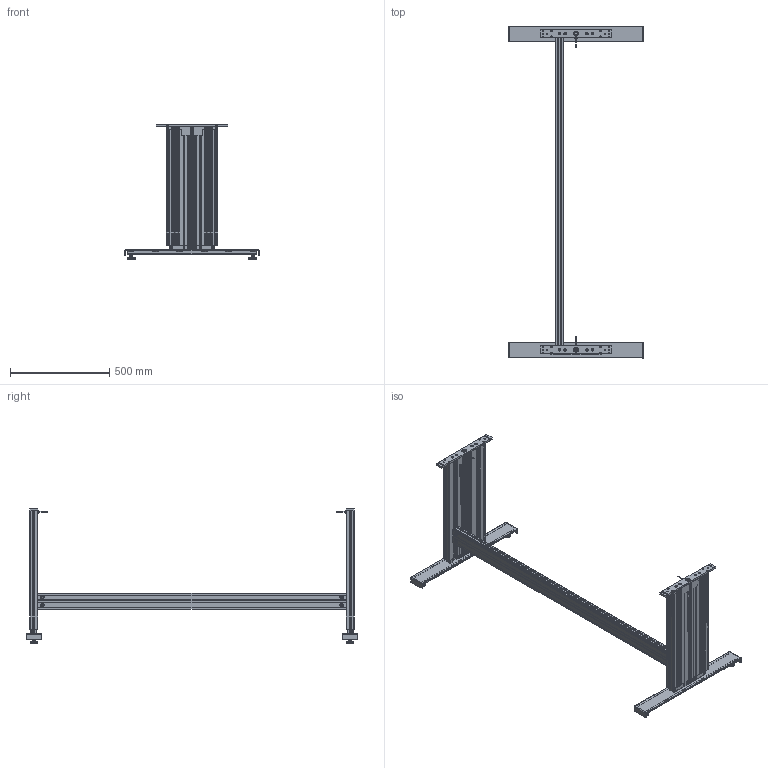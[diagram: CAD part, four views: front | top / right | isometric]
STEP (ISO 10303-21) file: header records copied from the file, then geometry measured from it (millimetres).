
FILE_DESCRIPTION(/* description */ ('Unknown'),/* implementation_level */ '2;1');
FILE_NAME(/* name */ '108.00184 Untergestell TT-2 1440 1590_eingefahren',/* time_stamp */ '2017-11-24T15:29:36+01:00',/* author */ ('Unknown'),/* organization */ ('Unknown'),/* preprocessor_version */ 'ST-DEVELOPER v16.7',/* originating_system */ 'DEX',/* authorisation */ $);
FILE_SCHEMA (('AP242_MANAGED_MODEL_BASED_3D_ENGINEERING_MIM_LF { 1 0 10303 442 1 1 4 }','AUTOMOTIVE_DESIGN {1 0 10303 214 3 1 1}'));
Products named in the file (31): 108.00184; 106.00315_oa_0; 119.00201; 119.00152; 124.00004; 142.00188; 142.00166; 142.00031; 126.00102; 107.00027_oa_1; 115.00007_oa_2; 125.00021; 125.00033; 142.00021; 113.00002_70mm; 106.00315_oa_3; 107.00027_oa_4; 115.00007_oa_5; 115.00094; 119.00174; 142.00207; 127.00515; 127.00520; 127.00556; 127.00557; 127.00520_461_469_Kehlnaht 1_oa_6; 113.00095; 113.00099; 113.00096; 113.00097; 113.00098
Assembly tree (54 placements, depth 5):
  108.00184
    106.00315_oa_0
      119.00201
      119.00152
      124.00004
      142.00188  x2
      142.00166  x4
      142.00031
      126.00102
      107.00027_oa_1
        115.00007_oa_2
        125.00021
        125.00033
        142.00021
      113.00002_70mm
    106.00315_oa_3
      119.00201
      119.00152
      124.00004
      142.00188  x2
      142.00166  x4
      142.00031
      126.00102
      107.00027_oa_4
        115.00007_oa_5
        125.00021
        125.00033
        142.00021
      113.00002_70mm
    115.00094
      119.00174
      142.00207  x4
    127.00515  x2
      127.00520
        127.00556
        127.00557
        127.00520_461_469_Kehlnaht 1_oa_6
      113.00095
        113.00099
        113.00096
          113.00097
          113.00098
Bounding box: 680 x 1670 x 676.5 mm (x, y, z)
Volume: 7880293 mm3; surface area: 5640386.1 mm2
Topology: 75 solids, 83 shells, 4902 faces, 13934 edges, 9262 vertices
Faces by surface type: plane 3044, cylinder 1552, cone 196, torus 76, bspline 24, sphere 10
Full cylindrical faces by diameter (mm): 1.8 x4, 2.2 x2, 2.78 x2, 3.242 x4, 3.5 x2, 4 x6, 4.1 x2, 4.2 x2, 5 x12, 5.5 x8, 6.6 x8, 6.647 x16, 6.917 x4, 7.5 x4, 8 x18, 8.376 x6, 8.5 x20, 8.7 x8, 9 x2, 10 x8, 11.3 x8, 12 x6, 12.5 x10, 13 x4, 13.5 x6, 13.7 x2, 13.9 x4, 18 x16, 25 x10, 27.2 x4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
Entity records: 85551 total; most frequent: CARTESIAN_POINT 14631, ORIENTED_EDGE 13082, DIRECTION 12741, EDGE_CURVE 6541, LINE 4481, VECTOR 4481, VERTEX_POINT 4432, AXIS2_PLACEMENT_3D 4130
